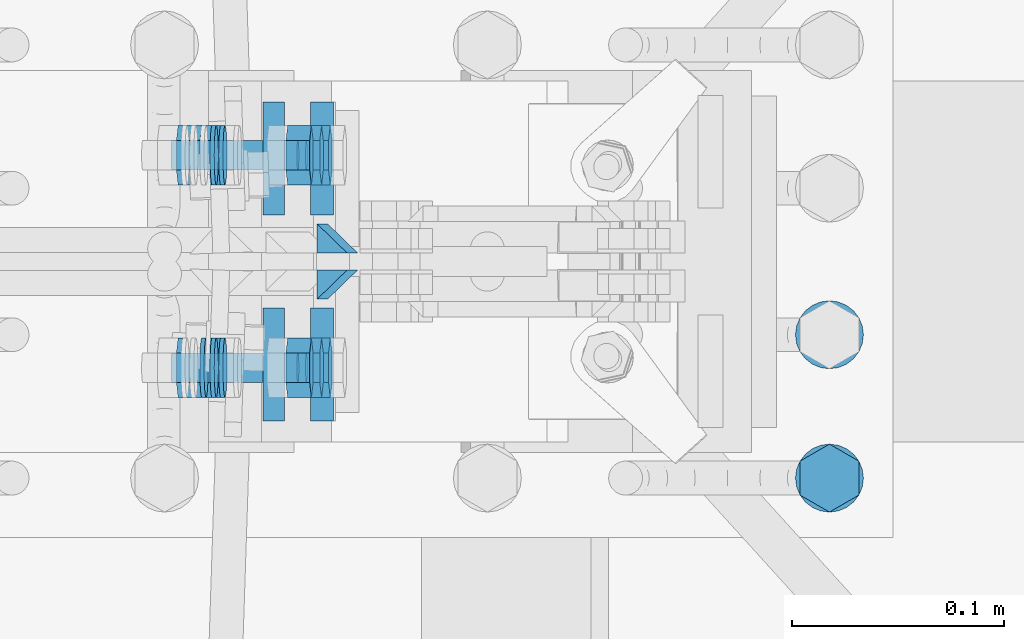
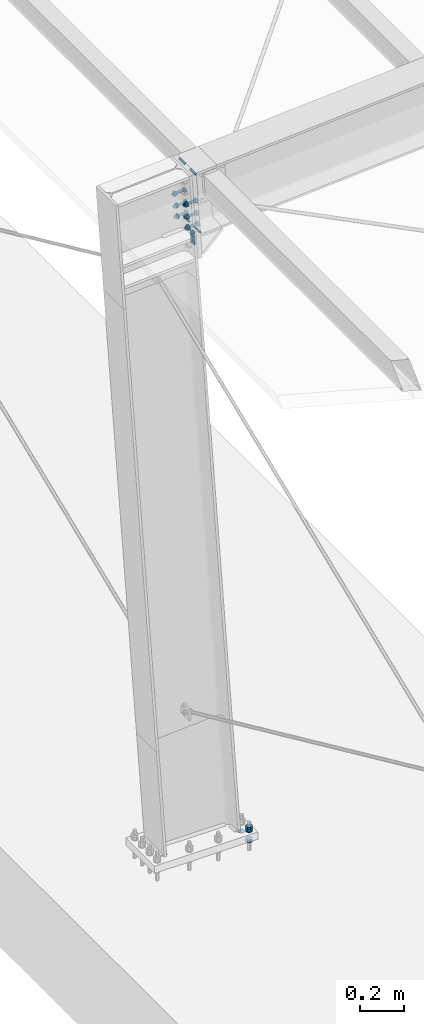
# One storey, part 55 of 72: 29 mechanical fasteners, 12 fasteners.
"""IFC4 building model written with IfcOpenShell, lengths in metres."""

from ifc_helpers import new_model, si_unit, frame, origin_with_axes, place, context, project, spatial, polyline, outline, extrude, type_object, element, save


model = new_model("IFC4")

# Units and contexts
model_context = context("Model", 3, precision=1e-05, world=origin_with_axes())
ifc_project = project(units=[si_unit("LENGTHUNIT", "METRE"), si_unit("AREAUNIT", "SQUARE_METRE"), si_unit("VOLUMEUNIT", "CUBIC_METRE"), si_unit("MASSUNIT", "GRAM", prefix="KILO"), si_unit("TIMEUNIT", "SECOND"), si_unit("PLANEANGLEUNIT", "RADIAN"), si_unit("SOLIDANGLEUNIT", "STERADIAN"), si_unit("THERMODYNAMICTEMPERATUREUNIT", "DEGREE_CELSIUS")], contexts=[model_context])

# Site, building, storey
placement_1 = place(None, origin_with_axes())
site = spatial("IfcSite", under=ifc_project, at=placement_1, Name="Italia", CompositionType="ELEMENT")
building = spatial("IfcBuilding", under=site, at=placement_1, Name="Pensilina", CompositionType="ELEMENT")
storey = spatial("IfcBuildingStorey", under=building, at=placement_1, Name="Storey 0", CompositionType="ELEMENT", Elevation=0.0)

# Mechanical fasteners
mechanical_fastener_type_1 = type_object("IfcMechanicalFastenerType", Name="Collegamento 0004_-199", PredefinedType="BOLT")
placement_2 = place(placement_1, origin_with_axes())
mechanical_fastener_1_placement = place(placement_2, origin_with_axes())
element("IfcMechanicalFastener", 1, at=mechanical_fastener_1_placement, inside=storey, type_object=mechanical_fastener_type_1, Name="Collegamento 0004_-199", NominalDiameter=0.032, context=model_context, shape_type="SweptSolid", body=[
    extrude(outline(polyline([(0.0, 0.0, 0.0), (-0.000544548, -0.00414109, 0.0), (-0.00214386, -0.00800002, 0.0), (-0.00468636, -0.0113137, 0.0), (-0.00799942, -0.0138564, 0.0), (-0.0118589, -0.0154548, 0.0), (-0.0159998, -0.016, 0.0), (-0.0201406, -0.0154548, 0.0), (-0.0240002, -0.0138564, 0.0), (-0.0273132, -0.0113137, 0.0), (-0.0298557, -0.00800002, 0.0), (-0.031455, -0.00414109, 0.0), (-0.0319996, 0.0, 0.0), (-0.031455, 0.00414109, 0.0), (-0.0298557, 0.00800002, 0.0), (-0.0273132, 0.0113137, 0.0), (-0.0240002, 0.0138564, 0.0), (-0.0201406, 0.0154548, 0.0), (-0.0159998, 0.016, 0.0), (-0.0118589, 0.0154548, 0.0), (-0.00799942, 0.0138564, 0.0), (-0.00468636, 0.0113137, 0.0), (-0.00214386, 0.00800002, 0.0), (-0.000544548, 0.00414109, 0.0), (0.0, 0.0, 0.0)])), frame((1.16913, 15.8215, 0.0597081), z_axis=(0.0, 0.0, 1.0), x_axis=(0.0, 1.0, 0.0)), (0.0, 0.0, 1.0), 0.004),
])
mechanical_fastener_type_2 = type_object("IfcMechanicalFastenerType", Name="Collegamento 0004_-199", PredefinedType="BOLT")
mechanical_fastener_2_placement = place(placement_2, origin_with_axes())
element("IfcMechanicalFastener", 2, at=mechanical_fastener_2_placement, inside=storey, type_object=mechanical_fastener_type_2, Name="Collegamento 0004_-199", NominalDiameter=0.0159997, context=model_context, shape_type="SweptSolid", body=[
    extrude(outline(polyline([(0.0, 0.0, 0.0), (0.0159998, 0.0, 0.0), (0.0239992, -0.0138564, 0.0), (0.0159998, -0.0277128, 0.0), (0.0, -0.0277128, 0.0), (-0.00800037, -0.0138564, 0.0), (0.0, 0.0, 0.0)])), frame((1.15527, 15.73, 0.107708), z_axis=(0.0, 0.0, 1.0), x_axis=(0.0, 1.0, 0.0)), (0.0, 0.0, 1.0), 0.0128),
])
mechanical_fastener_type_3 = type_object("IfcMechanicalFastenerType", Name="Collegamento 0004_-199", PredefinedType="BOLT")
mechanical_fastener_3_placement = place(placement_2, origin_with_axes())
element("IfcMechanicalFastener", 3, at=mechanical_fastener_3_placement, inside=storey, type_object=mechanical_fastener_type_3, Name="Collegamento 0004_-199", NominalDiameter=0.0159997, context=model_context, shape_type="SweptSolid", body=[
    extrude(outline(polyline([(0.0, 0.0, 0.0), (0.0159998, 0.0, 0.0), (0.0239992, -0.0138564, 0.0), (0.0159998, -0.0277128, 0.0), (0.0, -0.0277128, 0.0), (-0.00800037, -0.0138564, 0.0), (0.0, 0.0, 0.0)])), frame((1.15527, 15.73, 0.120508), z_axis=(0.0, 0.0, 1.0), x_axis=(0.0, 1.0, 0.0)), (0.0, 0.0, 1.0), 0.0128),
])
mechanical_fastener_type_4 = type_object("IfcMechanicalFastenerType", Name="Collegamento 0004_-199", PredefinedType="BOLT")
mechanical_fastener_4_placement = place(placement_2, origin_with_axes())
element("IfcMechanicalFastener", 4, at=mechanical_fastener_4_placement, inside=storey, type_object=mechanical_fastener_type_4, Name="Collegamento 0004_-199", NominalDiameter=0.0159997, context=model_context, shape_type="SweptSolid", body=[
    extrude(outline(polyline([(0.0, 0.0, 0.0), (0.0159998, 0.0, 0.0), (0.0239992, -0.0138564, 0.0), (0.0159998, -0.0277128, 0.0), (0.0, -0.0277128, 0.0), (-0.00800037, -0.0138564, 0.0), (0.0, 0.0, 0.0)])), frame((1.15527, 15.73, 0.0469081), z_axis=(0.0, 0.0, 1.0), x_axis=(0.0, 1.0, 0.0)), (0.0, 0.0, 1.0), 0.0128),
])
mechanical_fastener_type_5 = type_object("IfcMechanicalFastenerType", Name="Collegamento 0004_-199", PredefinedType="BOLT")
mechanical_fastener_5_placement = place(placement_2, origin_with_axes())
element("IfcMechanicalFastener", 5, at=mechanical_fastener_5_placement, inside=storey, type_object=mechanical_fastener_type_5, Name="Collegamento 0004_-199", NominalDiameter=0.032, context=model_context, shape_type="SweptSolid", body=[
    extrude(outline(polyline([(0.0, 0.0, 0.0), (-0.000544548, -0.00414109, 0.0), (-0.00214386, -0.00800002, 0.0), (-0.00468636, -0.0113137, 0.0), (-0.00799942, -0.0138564, 0.0), (-0.0118589, -0.0154548, 0.0), (-0.0159998, -0.016, 0.0), (-0.0201406, -0.0154548, 0.0), (-0.0240002, -0.0138564, 0.0), (-0.0273132, -0.0113137, 0.0), (-0.0298557, -0.00800002, 0.0), (-0.031455, -0.00414109, 0.0), (-0.0319996, 0.0, 0.0), (-0.031455, 0.00414109, 0.0), (-0.0298557, 0.00800002, 0.0), (-0.0273132, 0.0113137, 0.0), (-0.0240002, 0.0138564, 0.0), (-0.0201406, 0.0154548, 0.0), (-0.0159998, 0.016, 0.0), (-0.0118589, 0.0154548, 0.0), (-0.00799942, 0.0138564, 0.0), (-0.00468636, 0.0113137, 0.0), (-0.00214386, 0.00800002, 0.0), (-0.000544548, 0.00414109, 0.0), (0.0, 0.0, 0.0)])), frame((1.16913, 15.754, 0.103708), z_axis=(0.0, 0.0, 1.0), x_axis=(0.0, 1.0, 0.0)), (0.0, 0.0, 1.0), 0.004),
])
mechanical_fastener_type_6 = type_object("IfcMechanicalFastenerType", Name="Collegamento 0004_-199", PredefinedType="BOLT")
mechanical_fastener_6_placement = place(placement_2, origin_with_axes())
element("IfcMechanicalFastener", 6, at=mechanical_fastener_6_placement, inside=storey, type_object=mechanical_fastener_type_6, Name="Collegamento 0004_-199", NominalDiameter=0.032, context=model_context, shape_type="SweptSolid", body=[
    extrude(outline(polyline([(0.0, 0.0, 0.0), (-0.000544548, -0.00414109, 0.0), (-0.00214386, -0.00800002, 0.0), (-0.00468636, -0.0113137, 0.0), (-0.00799942, -0.0138564, 0.0), (-0.0118589, -0.0154548, 0.0), (-0.0159998, -0.016, 0.0), (-0.0201406, -0.0154548, 0.0), (-0.0240002, -0.0138564, 0.0), (-0.0273132, -0.0113137, 0.0), (-0.0298557, -0.00800002, 0.0), (-0.031455, -0.00414109, 0.0), (-0.0319996, 0.0, 0.0), (-0.031455, 0.00414109, 0.0), (-0.0298557, 0.00800002, 0.0), (-0.0273132, 0.0113137, 0.0), (-0.0240002, 0.0138564, 0.0), (-0.0201406, 0.0154548, 0.0), (-0.0159998, 0.016, 0.0), (-0.0118589, 0.0154548, 0.0), (-0.00799942, 0.0138564, 0.0), (-0.00468636, 0.0113137, 0.0), (-0.00214386, 0.00800002, 0.0), (-0.000544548, 0.00414109, 0.0), (0.0, 0.0, 0.0)])), frame((1.16913, 15.754, 0.0597081), z_axis=(0.0, 0.0, 1.0), x_axis=(0.0, 1.0, 0.0)), (0.0, 0.0, 1.0), 0.004),
])

# Fasteners
fastener_type_1 = type_object("IfcFastenerType", Name="Collegamento 0104_0204", PredefinedType="WELD")
fastener_1_placement = place(placement_2, origin_with_axes())
element("IfcFastener", 7, at=fastener_1_placement, inside=storey, type_object=fastener_type_1, Name="Collegamento 0104_0204", context=model_context, shape_type="SweptSolid", body=[
    extrude(outline(polyline([(0.0, 0.0, 0.0), (-0.00947309, 0.0105422, 0.0), (0.000676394, 0.00984502, 0.0), (0.0, 0.0, 0.0)])), frame((0.903157, 15.8619, 3.80624), z_axis=(0.0, 1.0, 0.0), x_axis=(-1.0, 0.0, 0.0)), (0.0, 0.0, 1.0), 0.0531006),
])
fastener_type_2 = type_object("IfcFastenerType", Name="Collegamento 0104_0204", PredefinedType="WELD")
fastener_2_placement = place(placement_2, origin_with_axes())
element("IfcFastener", 8, at=fastener_2_placement, inside=storey, type_object=fastener_type_2, Name="Collegamento 0104_0204", context=model_context, shape_type="SweptSolid", body=[
    extrude(outline(polyline([(0.0, 0.0, 0.0), (0.0108258, -0.00914764, 0.0), (0.000676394, -0.00984478, 0.0), (0.0, 0.0, 0.0)])), frame((0.924744, 15.9151, 3.49202), z_axis=(0.0, -1.0, 0.0), x_axis=(1.0, 0.0, 0.0)), (0.0, 0.0, 1.0), 0.0531006),
])
fastener_type_3 = type_object("IfcFastenerType", Name="Collegamento 0104_0204", PredefinedType="WELD")
fastener_3_placement = place(placement_2, origin_with_axes())
element("IfcFastener", 9, at=fastener_3_placement, inside=storey, type_object=fastener_type_3, Name="Collegamento 0104_0204", context=model_context, shape_type="SweptSolid", body=[
    extrude(outline(polyline([(0.0, 0.0, 0.0), (0.0108258, -0.00914764, 0.0), (0.000676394, -0.00984478, 0.0), (0.0, 0.0, 0.0)])), frame((0.924744, 15.8181, 3.49202), z_axis=(0.0, -1.0, 0.0), x_axis=(1.0, 0.0, 0.0)), (0.0, 0.0, 1.0), 0.0531006),
])
fastener_type_4 = type_object("IfcFastenerType", Name="Collegamento 0104_0204", PredefinedType="WELD")
fastener_4_placement = place(placement_2, origin_with_axes())
element("IfcFastener", 10, at=fastener_4_placement, inside=storey, type_object=fastener_type_4, Name="Collegamento 0104_0204", context=model_context, shape_type="SweptSolid", body=[
    extrude(outline(polyline([(0.0, 0.0, 0.0), (-0.00947309, 0.0105422, 0.0), (0.000676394, 0.00984502, 0.0), (0.0, 0.0, 0.0)])), frame((0.903157, 15.7649, 3.80624), z_axis=(0.0, 1.0, 0.0), x_axis=(-1.0, 0.0, 0.0)), (0.0, 0.0, 1.0), 0.0531006),
])
fastener_type_5 = type_object("IfcFastenerType", Name="Collegamento 0104_0204", PredefinedType="WELD")
fastener_5_placement = place(placement_2, origin_with_axes())
element("IfcFastener", 11, at=fastener_5_placement, inside=storey, type_object=fastener_type_5, Name="Collegamento 0104_0204", context=model_context, shape_type="SweptSolid", body=[
    extrude(outline(polyline([(0.0, 0.0, 0.0), (0.0137482, 0.0141734, 0.0), (0.0137482, 0.0, 0.0), (0.0, 0.0, 0.0)])), frame((0.932871, 15.8577, 3.37373), z_axis=(-0.068540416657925, 0.0, 0.997648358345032), x_axis=(0.0, -1.0, 0.0)), (0.0, 0.0, 1.0), 0.0721),
])
fastener_type_6 = type_object("IfcFastenerType", Name="Collegamento 0104_0204", PredefinedType="WELD")
fastener_6_placement = place(placement_2, origin_with_axes())
element("IfcFastener", 12, at=fastener_6_placement, inside=storey, type_object=fastener_type_6, Name="Collegamento 0104_0204", context=model_context, shape_type="SweptSolid", body=[
    extrude(outline(polyline([(0.0, 0.0, 0.0), (0.0137482, 0.0141734, 0.0), (0.0137482, 0.0, 0.0), (0.0, 0.0, 0.0)])), frame((0.927929, 15.8223, 3.44566), z_axis=(0.068540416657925, 0.0, -0.997648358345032), x_axis=(0.0, 1.0, 0.0)), (0.0, 0.0, 1.0), 0.0721),
])
fastener_type_7 = type_object("IfcFastenerType", Name="Collegamento 0104_0204", PredefinedType="WELD")
fastener_7_placement = place(placement_2, origin_with_axes())
element("IfcFastener", 13, at=fastener_7_placement, inside=storey, type_object=fastener_type_7, Name="Collegamento 0104_0204", context=model_context, shape_type="SweptSolid", body=[
    extrude(outline(polyline([(0.0, 0.0, 0.0), (-0.00947309, 0.0105422, 0.0), (0.000676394, 0.00984502, 0.0), (0.0, 0.0, 0.0)])), frame((0.903157, 15.8619, 3.80624), z_axis=(0.0, 1.0, 0.0), x_axis=(-1.0, 0.0, 0.0)), (0.0, 0.0, 1.0), 0.0531006),
])
fastener_type_8 = type_object("IfcFastenerType", Name="Collegamento 0104_0204", PredefinedType="WELD")
fastener_8_placement = place(placement_2, origin_with_axes())
element("IfcFastener", 14, at=fastener_8_placement, inside=storey, type_object=fastener_type_8, Name="Collegamento 0104_0204", context=model_context, shape_type="SweptSolid", body=[
    extrude(outline(polyline([(0.0, 0.0, 0.0), (0.0108258, -0.00914764, 0.0), (0.000676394, -0.00984478, 0.0), (0.0, 0.0, 0.0)])), frame((0.924744, 15.9151, 3.49202), z_axis=(0.0, -1.0, 0.0), x_axis=(1.0, 0.0, 0.0)), (0.0, 0.0, 1.0), 0.0531006),
])
fastener_type_9 = type_object("IfcFastenerType", Name="Collegamento 0104_0204", PredefinedType="WELD")
fastener_9_placement = place(placement_2, origin_with_axes())
element("IfcFastener", 15, at=fastener_9_placement, inside=storey, type_object=fastener_type_9, Name="Collegamento 0104_0204", context=model_context, shape_type="SweptSolid", body=[
    extrude(outline(polyline([(0.0, 0.0, 0.0), (0.0108258, -0.00914764, 0.0), (0.000676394, -0.00984478, 0.0), (0.0, 0.0, 0.0)])), frame((0.924744, 15.8181, 3.49202), z_axis=(0.0, -1.0, 0.0), x_axis=(1.0, 0.0, 0.0)), (0.0, 0.0, 1.0), 0.0531006),
])
fastener_type_10 = type_object("IfcFastenerType", Name="Collegamento 0104_0204", PredefinedType="WELD")
fastener_10_placement = place(placement_2, origin_with_axes())
element("IfcFastener", 16, at=fastener_10_placement, inside=storey, type_object=fastener_type_10, Name="Collegamento 0104_0204", context=model_context, shape_type="SweptSolid", body=[
    extrude(outline(polyline([(0.0, 0.0, 0.0), (-0.00947309, 0.0105422, 0.0), (0.000676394, 0.00984502, 0.0), (0.0, 0.0, 0.0)])), frame((0.903157, 15.7649, 3.80624), z_axis=(0.0, 1.0, 0.0), x_axis=(-1.0, 0.0, 0.0)), (0.0, 0.0, 1.0), 0.0531006),
])
fastener_type_11 = type_object("IfcFastenerType", Name="Collegamento 0104_0204", PredefinedType="WELD")
fastener_11_placement = place(placement_2, origin_with_axes())
element("IfcFastener", 17, at=fastener_11_placement, inside=storey, type_object=fastener_type_11, Name="Collegamento 0104_0204", context=model_context, shape_type="SweptSolid", body=[
    extrude(outline(polyline([(0.0, 0.0, 0.0), (0.0137482, 0.0141734, 0.0), (0.0137482, 0.0, 0.0), (0.0, 0.0, 0.0)])), frame((0.932871, 15.8577, 3.37373), z_axis=(-0.068540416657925, 0.0, 0.997648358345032), x_axis=(0.0, -1.0, 0.0)), (0.0, 0.0, 1.0), 0.0721),
])
fastener_type_12 = type_object("IfcFastenerType", Name="Collegamento 0104_0204", PredefinedType="WELD")
fastener_12_placement = place(placement_2, origin_with_axes())
element("IfcFastener", 18, at=fastener_12_placement, inside=storey, type_object=fastener_type_12, Name="Collegamento 0104_0204", context=model_context, shape_type="SweptSolid", body=[
    extrude(outline(polyline([(0.0, 0.0, 0.0), (0.0137482, 0.0141734, 0.0), (0.0137482, 0.0, 0.0), (0.0, 0.0, 0.0)])), frame((0.927929, 15.8223, 3.44566), z_axis=(0.068540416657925, 0.0, -0.997648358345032), x_axis=(0.0, 1.0, 0.0)), (0.0, 0.0, 1.0), 0.0721),
])

# Mechanical fasteners
mechanical_fastener_type_7 = type_object("IfcMechanicalFastenerType", Name="Collegamento 0104_0204", PredefinedType="BOLT")
mechanical_fastener_7_placement = place(placement_2, origin_with_axes())
element("IfcMechanicalFastener", 19, at=mechanical_fastener_7_placement, inside=storey, type_object=mechanical_fastener_type_7, Name="Collegamento 0104_0204", NominalDiameter=0.0139999, context=model_context, shape_type="SweptSolid", body=[
    extrude(outline(polyline([(0.0, 0.0, 0.0), (-0.0139999, 0.0, 0.0), (-0.0209999, 0.0121245, 0.0), (-0.0139999, 0.0242488, 0.0), (0.0, 0.0242488, 0.0), (0.00699997, 0.0121245, 0.0), (0.0, 0.0, 0.0)])), frame((0.923742, 15.797, 3.50734), z_axis=(0.997648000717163, 0.0, 0.068545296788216), x_axis=(0.0, 1.0, 0.0)), (0.0, 0.0, 1.0), 0.0112),
])
mechanical_fastener_type_8 = type_object("IfcMechanicalFastenerType", Name="Collegamento 0104_0204", PredefinedType="BOLT")
mechanical_fastener_8_placement = place(placement_2, origin_with_axes())
element("IfcMechanicalFastener", 20, at=mechanical_fastener_8_placement, inside=storey, type_object=mechanical_fastener_type_8, Name="Collegamento 0104_0204", NominalDiameter=0.014, context=model_context, shape_type="SweptSolid", body=[
    extrude(outline(polyline([(0.0, 0.0, 0.0), (-0.000238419, -0.00181174, 0.0), (-0.000937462, -0.00350022, 0.0), (-0.0020504, -0.00494981, 0.0), (-0.00349998, -0.00606227, 0.0), (-0.00518799, -0.00676155, 0.0), (-0.00699997, -0.00699997, 0.0), (-0.00881195, -0.00676155, 0.0), (-0.0105, -0.00606227, 0.0), (-0.0119495, -0.00494981, 0.0), (-0.0130625, -0.00350022, 0.0), (-0.0137615, -0.00181174, 0.0), (-0.0139999, 0.0, 0.0), (-0.0137615, 0.00181174, 0.0), (-0.0130625, 0.00349998, 0.0), (-0.0119495, 0.00494981, 0.0), (-0.0105, 0.00606227, 0.0), (-0.00881195, 0.00676155, 0.0), (-0.00699997, 0.00699997, 0.0), (-0.00518799, 0.00676155, 0.0), (-0.00349998, 0.00606227, 0.0), (-0.0020504, 0.00494981, 0.0), (-0.000937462, 0.00349998, 0.0), (-0.000238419, 0.00181174, 0.0), (0.0, 0.0, 0.0)])), frame((0.863551, 15.797, 3.51536), z_axis=(0.997648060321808, 0.0, 0.068544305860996), x_axis=(0.0, 1.0, 0.0)), (0.0, 0.0, 1.0), 0.0595),
])
mechanical_fastener_type_9 = type_object("IfcMechanicalFastenerType", Name="Collegamento 0104_0204", PredefinedType="BOLT")
mechanical_fastener_9_placement = place(placement_2, origin_with_axes())
element("IfcMechanicalFastener", 21, at=mechanical_fastener_9_placement, inside=storey, type_object=mechanical_fastener_type_9, Name="Collegamento 0104_0204", NominalDiameter=0.0139999, context=model_context, shape_type="SweptSolid", body=[
    extrude(outline(polyline([(0.0, 0.0, 0.0), (-0.0139999, 0.0, 0.0), (-0.0209999, 0.0121245, 0.0), (-0.0139999, 0.0242488, 0.0), (0.0, 0.0242488, 0.0), (0.00699997, 0.0121245, 0.0), (0.0, 0.0, 0.0)])), frame((0.872163, 15.797, 3.5038), z_axis=(0.997648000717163, 0.0, 0.068545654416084), x_axis=(0.0, 1.0, 0.0)), (0.0, 0.0, 1.0), 0.0111999),
])
mechanical_fastener_type_10 = type_object("IfcMechanicalFastenerType", Name="Collegamento 0104_0204", PredefinedType="BOLT")
mechanical_fastener_10_placement = place(placement_2, origin_with_axes())
element("IfcMechanicalFastener", 22, at=mechanical_fastener_10_placement, inside=storey, type_object=mechanical_fastener_type_10, Name="Collegamento 0104_0204", NominalDiameter=0.028, context=model_context, shape_type="SweptSolid", body=[
    extrude(outline(polyline([(0.0, 0.0, 0.0), (-0.000476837, -0.00362349, 0.0), (-0.00187588, -0.00699997, 0.0), (-0.0041008, -0.00989938, 0.0), (-0.00699997, -0.0121243, 0.0), (-0.0103769, -0.0135229, 0.0), (-0.0139999, -0.0139999, 0.0), (-0.0176229, -0.0135229, 0.0), (-0.0209999, -0.0121243, 0.0), (-0.0238991, -0.00989938, 0.0), (-0.026124, -0.00699997, 0.0), (-0.027523, -0.00362349, 0.0), (-0.0279999, 0.0, 0.0), (-0.027523, 0.00362349, 0.0), (-0.026124, 0.00699997, 0.0), (-0.0238991, 0.00989962, 0.0), (-0.0209999, 0.0121245, 0.0), (-0.0176229, 0.0135231, 0.0), (-0.0139999, 0.0139999, 0.0), (-0.0103769, 0.0135231, 0.0), (-0.00699997, 0.0121245, 0.0), (-0.0041008, 0.00989962, 0.0), (-0.00187588, 0.00699997, 0.0), (-0.000476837, 0.00362349, 0.0), (0.0, 0.0, 0.0)])), frame((0.882506, 15.804, 3.51666), z_axis=(0.997648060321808, 0.0, 0.06854435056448), x_axis=(0.0, 1.0, 0.0)), (0.0, 0.0, 1.0), 0.00200003),
])
mechanical_fastener_type_11 = type_object("IfcMechanicalFastenerType", Name="Collegamento 0104_0204", PredefinedType="BOLT")
mechanical_fastener_11_placement = place(placement_2, origin_with_axes())
element("IfcMechanicalFastener", 23, at=mechanical_fastener_11_placement, inside=storey, type_object=mechanical_fastener_type_11, Name="Collegamento 0104_0204", NominalDiameter=0.0139999, context=model_context, shape_type="SweptSolid", body=[
    extrude(outline(polyline([(0.0, 0.0, 0.0), (-0.0139999, 0.0, 0.0), (-0.0209999, 0.0121245, 0.0), (-0.0139999, 0.0242488, 0.0), (0.0, 0.0242488, 0.0), (0.00699997, 0.0121245, 0.0), (0.0, 0.0, 0.0)])), frame((0.923742, 15.897, 3.50734), z_axis=(0.997648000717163, 0.0, 0.068545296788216), x_axis=(0.0, 1.0, 0.0)), (0.0, 0.0, 1.0), 0.0112),
])
mechanical_fastener_type_12 = type_object("IfcMechanicalFastenerType", Name="Collegamento 0104_0204", PredefinedType="BOLT")
mechanical_fastener_12_placement = place(placement_2, origin_with_axes())
element("IfcMechanicalFastener", 24, at=mechanical_fastener_12_placement, inside=storey, type_object=mechanical_fastener_type_12, Name="Collegamento 0104_0204", NominalDiameter=0.014, context=model_context, shape_type="SweptSolid", body=[
    extrude(outline(polyline([(0.0, 0.0, 0.0), (-0.000238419, -0.00181174, 0.0), (-0.000937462, -0.00350022, 0.0), (-0.0020504, -0.00494981, 0.0), (-0.00349998, -0.00606227, 0.0), (-0.00518799, -0.00676155, 0.0), (-0.00699997, -0.00699997, 0.0), (-0.00881195, -0.00676155, 0.0), (-0.0105, -0.00606227, 0.0), (-0.0119495, -0.00494981, 0.0), (-0.0130625, -0.00350022, 0.0), (-0.0137615, -0.00181174, 0.0), (-0.0139999, 0.0, 0.0), (-0.0137615, 0.00181174, 0.0), (-0.0130625, 0.00349998, 0.0), (-0.0119495, 0.00494981, 0.0), (-0.0105, 0.00606227, 0.0), (-0.00881195, 0.00676155, 0.0), (-0.00699997, 0.00699997, 0.0), (-0.00518799, 0.00676155, 0.0), (-0.00349998, 0.00606227, 0.0), (-0.0020504, 0.00494981, 0.0), (-0.000937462, 0.00349998, 0.0), (-0.000238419, 0.00181174, 0.0), (0.0, 0.0, 0.0)])), frame((0.863551, 15.897, 3.51536), z_axis=(0.997648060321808, 0.0, 0.068544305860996), x_axis=(0.0, 1.0, 0.0)), (0.0, 0.0, 1.0), 0.0595),
])
mechanical_fastener_type_13 = type_object("IfcMechanicalFastenerType", Name="Collegamento 0104_0204", PredefinedType="BOLT")
mechanical_fastener_13_placement = place(placement_2, origin_with_axes())
element("IfcMechanicalFastener", 25, at=mechanical_fastener_13_placement, inside=storey, type_object=mechanical_fastener_type_13, Name="Collegamento 0104_0204", NominalDiameter=0.0139999, context=model_context, shape_type="SweptSolid", body=[
    extrude(outline(polyline([(0.0, 0.0, 0.0), (-0.0139999, 0.0, 0.0), (-0.0209999, 0.0121245, 0.0), (-0.0139999, 0.0242488, 0.0), (0.0, 0.0242488, 0.0), (0.00699997, 0.0121245, 0.0), (0.0, 0.0, 0.0)])), frame((0.872163, 15.897, 3.5038), z_axis=(0.997648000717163, 0.0, 0.068545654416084), x_axis=(0.0, 1.0, 0.0)), (0.0, 0.0, 1.0), 0.0111999),
])
mechanical_fastener_type_14 = type_object("IfcMechanicalFastenerType", Name="Collegamento 0104_0204", PredefinedType="BOLT")
mechanical_fastener_14_placement = place(placement_2, origin_with_axes())
element("IfcMechanicalFastener", 26, at=mechanical_fastener_14_placement, inside=storey, type_object=mechanical_fastener_type_14, Name="Collegamento 0104_0204", NominalDiameter=0.028, context=model_context, shape_type="SweptSolid", body=[
    extrude(outline(polyline([(0.0, 0.0, 0.0), (-0.000476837, -0.00362349, 0.0), (-0.00187588, -0.00699997, 0.0), (-0.0041008, -0.00989938, 0.0), (-0.00699997, -0.0121243, 0.0), (-0.0103769, -0.0135229, 0.0), (-0.0139999, -0.0139999, 0.0), (-0.0176229, -0.0135229, 0.0), (-0.0209999, -0.0121243, 0.0), (-0.0238991, -0.00989938, 0.0), (-0.026124, -0.00699997, 0.0), (-0.027523, -0.00362349, 0.0), (-0.0279999, 0.0, 0.0), (-0.027523, 0.00362349, 0.0), (-0.026124, 0.00699997, 0.0), (-0.0238991, 0.00989962, 0.0), (-0.0209999, 0.0121245, 0.0), (-0.0176229, 0.0135231, 0.0), (-0.0139999, 0.0139999, 0.0), (-0.0103769, 0.0135231, 0.0), (-0.00699997, 0.0121245, 0.0), (-0.0041008, 0.00989962, 0.0), (-0.00187588, 0.00699997, 0.0), (-0.000476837, 0.00362349, 0.0), (0.0, 0.0, 0.0)])), frame((0.882506, 15.904, 3.51666), z_axis=(0.997648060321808, 0.0, 0.06854435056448), x_axis=(0.0, 1.0, 0.0)), (0.0, 0.0, 1.0), 0.00200003),
])
mechanical_fastener_type_15 = type_object("IfcMechanicalFastenerType", Name="Collegamento 0104_0204", PredefinedType="BOLT")
mechanical_fastener_15_placement = place(placement_2, origin_with_axes())
element("IfcMechanicalFastener", 27, at=mechanical_fastener_15_placement, inside=storey, type_object=mechanical_fastener_type_15, Name="Collegamento 0104_0204", NominalDiameter=0.0139999, context=model_context, shape_type="SweptSolid", body=[
    extrude(outline(polyline([(0.0, 0.0, 0.0), (-0.0139999, 0.0, 0.0), (-0.0209999, 0.0121243, 0.0), (-0.0139999, 0.0242488, 0.0), (0.0, 0.0242488, 0.0), (0.00699997, 0.0121243, 0.0), (0.0, 0.0, 0.0)])), frame((0.919629, 15.797, 3.5672), z_axis=(0.997649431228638, 0.0, 0.068524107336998), x_axis=(0.0, 1.0, 0.0)), (0.0, 0.0, 1.0), 0.0112),
])
mechanical_fastener_type_16 = type_object("IfcMechanicalFastenerType", Name="Collegamento 0104_0204", PredefinedType="BOLT")
mechanical_fastener_16_placement = place(placement_2, origin_with_axes())
element("IfcMechanicalFastener", 28, at=mechanical_fastener_16_placement, inside=storey, type_object=mechanical_fastener_type_16, Name="Collegamento 0104_0204", NominalDiameter=0.014, context=model_context, shape_type="SweptSolid", body=[
    extrude(outline(polyline([(0.0, 0.0, 0.0), (-0.000238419, -0.00181174, 0.0), (-0.000937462, -0.00349998, 0.0), (-0.0020504, -0.00494981, 0.0), (-0.00349998, -0.00606227, 0.0), (-0.00518799, -0.00676155, 0.0), (-0.00699997, -0.00699997, 0.0), (-0.00881195, -0.00676155, 0.0), (-0.0105, -0.00606227, 0.0), (-0.0119495, -0.00494981, 0.0), (-0.0130625, -0.00349998, 0.0), (-0.0137615, -0.00181174, 0.0), (-0.0139999, 0.0, 0.0), (-0.0137615, 0.00181174, 0.0), (-0.0130625, 0.00350022, 0.0), (-0.0119495, 0.00494981, 0.0), (-0.0105, 0.00606227, 0.0), (-0.00881195, 0.00676155, 0.0), (-0.00699997, 0.00699997, 0.0), (-0.00518799, 0.00676155, 0.0), (-0.00349998, 0.00606227, 0.0), (-0.0020504, 0.00494981, 0.0), (-0.000937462, 0.00350022, 0.0), (-0.000238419, 0.00181174, 0.0), (0.0, 0.0, 0.0)])), frame((0.859438, 15.797, 3.57522), z_axis=(0.997648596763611, 0.0, 0.068536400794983), x_axis=(0.0, 1.0, 0.0)), (0.0, 0.0, 1.0), 0.0594999),
])
mechanical_fastener_type_17 = type_object("IfcMechanicalFastenerType", Name="Collegamento 0104_0204", PredefinedType="BOLT")
mechanical_fastener_17_placement = place(placement_2, origin_with_axes())
element("IfcMechanicalFastener", 29, at=mechanical_fastener_17_placement, inside=storey, type_object=mechanical_fastener_type_17, Name="Collegamento 0104_0204", NominalDiameter=0.0139999, context=model_context, shape_type="SweptSolid", body=[
    extrude(outline(polyline([(0.0, 0.0, 0.0), (-0.0139999, 0.0, 0.0), (-0.0209999, 0.0121243, 0.0), (-0.0139999, 0.0242486, 0.0), (0.0, 0.0242486, 0.0), (0.00699997, 0.0121243, 0.0), (0.0, 0.0, 0.0)])), frame((0.868051, 15.797, 3.56365), z_axis=(0.997648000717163, 0.0, 0.068545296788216), x_axis=(0.0, 1.0, 0.0)), (0.0, 0.0, 1.0), 0.0112),
])
mechanical_fastener_type_18 = type_object("IfcMechanicalFastenerType", Name="Collegamento 0104_0204", PredefinedType="BOLT")
mechanical_fastener_18_placement = place(placement_2, origin_with_axes())
element("IfcMechanicalFastener", 30, at=mechanical_fastener_18_placement, inside=storey, type_object=mechanical_fastener_type_18, Name="Collegamento 0104_0204", NominalDiameter=0.028, context=model_context, shape_type="SweptSolid", body=[
    extrude(outline(polyline([(0.0, 0.0, 0.0), (-0.000476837, -0.00362349, 0.0), (-0.00187588, -0.00699997, 0.0), (-0.0041008, -0.00989962, 0.0), (-0.00699997, -0.0121245, 0.0), (-0.0103769, -0.0135229, 0.0), (-0.0139999, -0.0139999, 0.0), (-0.0176229, -0.0135229, 0.0), (-0.0209999, -0.0121245, 0.0), (-0.0238991, -0.00989962, 0.0), (-0.026124, -0.00699997, 0.0), (-0.027523, -0.00362349, 0.0), (-0.0279999, 0.0, 0.0), (-0.027523, 0.00362349, 0.0), (-0.026124, 0.00699997, 0.0), (-0.0238991, 0.00989962, 0.0), (-0.0209999, 0.0121245, 0.0), (-0.0176229, 0.0135229, 0.0), (-0.0139999, 0.0139999, 0.0), (-0.0103769, 0.0135229, 0.0), (-0.00699997, 0.0121245, 0.0), (-0.0041008, 0.00989962, 0.0), (-0.00187588, 0.00699997, 0.0), (-0.000476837, 0.00362349, 0.0), (0.0, 0.0, 0.0)])), frame((0.878394, 15.804, 3.57652), z_axis=(0.997648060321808, 0.0, 0.06854435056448), x_axis=(0.0, 1.0, 0.0)), (0.0, 0.0, 1.0), 0.00200003),
])
mechanical_fastener_type_19 = type_object("IfcMechanicalFastenerType", Name="Collegamento 0104_0204", PredefinedType="BOLT")
mechanical_fastener_19_placement = place(placement_2, origin_with_axes())
element("IfcMechanicalFastener", 31, at=mechanical_fastener_19_placement, inside=storey, type_object=mechanical_fastener_type_19, Name="Collegamento 0104_0204", NominalDiameter=0.0139999, context=model_context, shape_type="SweptSolid", body=[
    extrude(outline(polyline([(0.0, 0.0, 0.0), (-0.0139999, 0.0, 0.0), (-0.0209999, 0.0121243, 0.0), (-0.0139999, 0.0242488, 0.0), (0.0, 0.0242488, 0.0), (0.00699997, 0.0121243, 0.0), (0.0, 0.0, 0.0)])), frame((0.919629, 15.897, 3.5672), z_axis=(0.997649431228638, 0.0, 0.068524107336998), x_axis=(0.0, 1.0, 0.0)), (0.0, 0.0, 1.0), 0.0112),
])
mechanical_fastener_type_20 = type_object("IfcMechanicalFastenerType", Name="Collegamento 0104_0204", PredefinedType="BOLT")
mechanical_fastener_20_placement = place(placement_2, origin_with_axes())
element("IfcMechanicalFastener", 32, at=mechanical_fastener_20_placement, inside=storey, type_object=mechanical_fastener_type_20, Name="Collegamento 0104_0204", NominalDiameter=0.014, context=model_context, shape_type="SweptSolid", body=[
    extrude(outline(polyline([(0.0, 0.0, 0.0), (-0.000238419, -0.00181174, 0.0), (-0.000937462, -0.00349998, 0.0), (-0.0020504, -0.00494981, 0.0), (-0.00349998, -0.00606227, 0.0), (-0.00518799, -0.00676155, 0.0), (-0.00699997, -0.00699997, 0.0), (-0.00881195, -0.00676155, 0.0), (-0.0105, -0.00606227, 0.0), (-0.0119495, -0.00494981, 0.0), (-0.0130625, -0.00349998, 0.0), (-0.0137615, -0.00181174, 0.0), (-0.0139999, 0.0, 0.0), (-0.0137615, 0.00181174, 0.0), (-0.0130625, 0.00350022, 0.0), (-0.0119495, 0.00494981, 0.0), (-0.0105, 0.00606227, 0.0), (-0.00881195, 0.00676155, 0.0), (-0.00699997, 0.00699997, 0.0), (-0.00518799, 0.00676155, 0.0), (-0.00349998, 0.00606227, 0.0), (-0.0020504, 0.00494981, 0.0), (-0.000937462, 0.00350022, 0.0), (-0.000238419, 0.00181174, 0.0), (0.0, 0.0, 0.0)])), frame((0.859438, 15.897, 3.57522), z_axis=(0.997648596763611, 0.0, 0.068536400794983), x_axis=(0.0, 1.0, 0.0)), (0.0, 0.0, 1.0), 0.0594999),
])
mechanical_fastener_type_21 = type_object("IfcMechanicalFastenerType", Name="Collegamento 0104_0204", PredefinedType="BOLT")
mechanical_fastener_21_placement = place(placement_2, origin_with_axes())
element("IfcMechanicalFastener", 33, at=mechanical_fastener_21_placement, inside=storey, type_object=mechanical_fastener_type_21, Name="Collegamento 0104_0204", NominalDiameter=0.0139999, context=model_context, shape_type="SweptSolid", body=[
    extrude(outline(polyline([(0.0, 0.0, 0.0), (-0.0139999, 0.0, 0.0), (-0.0209999, 0.0121243, 0.0), (-0.0139999, 0.0242486, 0.0), (0.0, 0.0242486, 0.0), (0.00699997, 0.0121243, 0.0), (0.0, 0.0, 0.0)])), frame((0.868051, 15.897, 3.56365), z_axis=(0.997648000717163, 0.0, 0.068545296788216), x_axis=(0.0, 1.0, 0.0)), (0.0, 0.0, 1.0), 0.0112),
])
mechanical_fastener_type_22 = type_object("IfcMechanicalFastenerType", Name="Collegamento 0104_0204", PredefinedType="BOLT")
mechanical_fastener_22_placement = place(placement_2, origin_with_axes())
element("IfcMechanicalFastener", 34, at=mechanical_fastener_22_placement, inside=storey, type_object=mechanical_fastener_type_22, Name="Collegamento 0104_0204", NominalDiameter=0.028, context=model_context, shape_type="SweptSolid", body=[
    extrude(outline(polyline([(0.0, 0.0, 0.0), (-0.000476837, -0.00362349, 0.0), (-0.00187588, -0.00699997, 0.0), (-0.0041008, -0.00989962, 0.0), (-0.00699997, -0.0121245, 0.0), (-0.0103769, -0.0135229, 0.0), (-0.0139999, -0.0139999, 0.0), (-0.0176229, -0.0135229, 0.0), (-0.0209999, -0.0121245, 0.0), (-0.0238991, -0.00989962, 0.0), (-0.026124, -0.00699997, 0.0), (-0.027523, -0.00362349, 0.0), (-0.0279999, 0.0, 0.0), (-0.027523, 0.00362349, 0.0), (-0.026124, 0.00699997, 0.0), (-0.0238991, 0.00989962, 0.0), (-0.0209999, 0.0121245, 0.0), (-0.0176229, 0.0135229, 0.0), (-0.0139999, 0.0139999, 0.0), (-0.0103769, 0.0135229, 0.0), (-0.00699997, 0.0121245, 0.0), (-0.0041008, 0.00989962, 0.0), (-0.00187588, 0.00699997, 0.0), (-0.000476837, 0.00362349, 0.0), (0.0, 0.0, 0.0)])), frame((0.878394, 15.904, 3.57652), z_axis=(0.997648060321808, 0.0, 0.06854435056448), x_axis=(0.0, 1.0, 0.0)), (0.0, 0.0, 1.0), 0.00200003),
])
mechanical_fastener_type_23 = type_object("IfcMechanicalFastenerType", Name="Collegamento 0104_0204", PredefinedType="BOLT")
mechanical_fastener_23_placement = place(placement_2, origin_with_axes())
element("IfcMechanicalFastener", 35, at=mechanical_fastener_23_placement, inside=storey, type_object=mechanical_fastener_type_23, Name="Collegamento 0104_0204", NominalDiameter=0.0139999, context=model_context, shape_type="SweptSolid", body=[
    extrude(outline(polyline([(0.0, 0.0, 0.0), (-0.0139999, 0.0, 0.0), (-0.0209999, 0.0121243, 0.0), (-0.0139999, 0.0242488, 0.0), (0.0, 0.0242488, 0.0), (0.00699997, 0.0121243, 0.0), (0.0, 0.0, 0.0)])), frame((0.914832, 15.797, 3.63703), z_axis=(0.997648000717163, 0.0, 0.068545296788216), x_axis=(0.0, 1.0, 0.0)), (0.0, 0.0, 1.0), 0.0112),
])
mechanical_fastener_type_24 = type_object("IfcMechanicalFastenerType", Name="Collegamento 0104_0204", PredefinedType="BOLT")
mechanical_fastener_24_placement = place(placement_2, origin_with_axes())
element("IfcMechanicalFastener", 36, at=mechanical_fastener_24_placement, inside=storey, type_object=mechanical_fastener_type_24, Name="Collegamento 0104_0204", NominalDiameter=0.014, context=model_context, shape_type="SweptSolid", body=[
    extrude(outline(polyline([(0.0, 0.0, 0.0), (-0.000238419, -0.00181174, 0.0), (-0.000937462, -0.00350022, 0.0), (-0.0020504, -0.00494981, 0.0), (-0.00349998, -0.00606227, 0.0), (-0.00518799, -0.00676155, 0.0), (-0.00699997, -0.00699997, 0.0), (-0.00881195, -0.00676155, 0.0), (-0.0105, -0.00606227, 0.0), (-0.0119495, -0.00494981, 0.0), (-0.0130625, -0.00350022, 0.0), (-0.0137615, -0.00181174, 0.0), (-0.0139999, 0.0, 0.0), (-0.0137615, 0.00181174, 0.0), (-0.0130625, 0.00349998, 0.0), (-0.0119495, 0.00494957, 0.0), (-0.0105, 0.00606203, 0.0), (-0.00881195, 0.00676131, 0.0), (-0.00699997, 0.00699997, 0.0), (-0.00518799, 0.00676131, 0.0), (-0.00349998, 0.00606203, 0.0), (-0.0020504, 0.00494957, 0.0), (-0.000937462, 0.00349998, 0.0), (-0.000238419, 0.00181174, 0.0), (0.0, 0.0, 0.0)])), frame((0.85464, 15.797, 3.64505), z_axis=(0.997648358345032, 0.0, 0.068540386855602), x_axis=(0.0, 1.0, 0.0)), (0.0, 0.0, 1.0), 0.0595),
])
mechanical_fastener_type_25 = type_object("IfcMechanicalFastenerType", Name="Collegamento 0104_0204", PredefinedType="BOLT")
mechanical_fastener_25_placement = place(placement_2, origin_with_axes())
element("IfcMechanicalFastener", 37, at=mechanical_fastener_25_placement, inside=storey, type_object=mechanical_fastener_type_25, Name="Collegamento 0104_0204", NominalDiameter=0.0139999, context=model_context, shape_type="SweptSolid", body=[
    extrude(outline(polyline([(0.0, 0.0, 0.0), (-0.0139999, 0.0, 0.0), (-0.0209999, 0.0121243, 0.0), (-0.0139999, 0.0242486, 0.0), (0.0, 0.0242486, 0.0), (0.00699997, 0.0121243, 0.0), (0.0, 0.0, 0.0)])), frame((0.863253, 15.797, 3.63349), z_axis=(0.997649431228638, 0.0, 0.068524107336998), x_axis=(0.0, 1.0, 0.0)), (0.0, 0.0, 1.0), 0.0112),
])
mechanical_fastener_type_26 = type_object("IfcMechanicalFastenerType", Name="Collegamento 0104_0204", PredefinedType="BOLT")
mechanical_fastener_26_placement = place(placement_2, origin_with_axes())
element("IfcMechanicalFastener", 38, at=mechanical_fastener_26_placement, inside=storey, type_object=mechanical_fastener_type_26, Name="Collegamento 0104_0204", NominalDiameter=0.028, context=model_context, shape_type="SweptSolid", body=[
    extrude(outline(polyline([(0.0, 0.0, 0.0), (-0.000476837, -0.00362349, 0.0), (-0.00187588, -0.00699997, 0.0), (-0.0041008, -0.00989938, 0.0), (-0.00699997, -0.0121243, 0.0), (-0.0103769, -0.0135229, 0.0), (-0.0139999, -0.0139999, 0.0), (-0.0176229, -0.0135229, 0.0), (-0.0209999, -0.0121243, 0.0), (-0.0238991, -0.00989938, 0.0), (-0.026124, -0.00699997, 0.0), (-0.027523, -0.00362349, 0.0), (-0.0279999, 0.0, 0.0), (-0.027523, 0.00362349, 0.0), (-0.026124, 0.00699997, 0.0), (-0.0238991, 0.00989962, 0.0), (-0.0209999, 0.0121245, 0.0), (-0.0176229, 0.0135231, 0.0), (-0.0139999, 0.0139999, 0.0), (-0.0103769, 0.0135231, 0.0), (-0.00699997, 0.0121245, 0.0), (-0.0041008, 0.00989962, 0.0), (-0.00187588, 0.00699997, 0.0), (-0.000476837, 0.00362349, 0.0), (0.0, 0.0, 0.0)])), frame((0.873596, 15.804, 3.64635), z_axis=(0.997647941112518, 0.0, 0.068546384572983), x_axis=(0.0, 1.0, 0.0)), (0.0, 0.0, 1.0), 0.00199997),
])
mechanical_fastener_type_27 = type_object("IfcMechanicalFastenerType", Name="Collegamento 0104_0204", PredefinedType="BOLT")
mechanical_fastener_27_placement = place(placement_2, origin_with_axes())
element("IfcMechanicalFastener", 39, at=mechanical_fastener_27_placement, inside=storey, type_object=mechanical_fastener_type_27, Name="Collegamento 0104_0204", NominalDiameter=0.0139999, context=model_context, shape_type="SweptSolid", body=[
    extrude(outline(polyline([(0.0, 0.0, 0.0), (-0.0139999, 0.0, 0.0), (-0.0209999, 0.0121243, 0.0), (-0.0139999, 0.0242488, 0.0), (0.0, 0.0242488, 0.0), (0.00699997, 0.0121243, 0.0), (0.0, 0.0, 0.0)])), frame((0.914832, 15.897, 3.63703), z_axis=(0.997648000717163, 0.0, 0.068545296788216), x_axis=(0.0, 1.0, 0.0)), (0.0, 0.0, 1.0), 0.0112),
])
mechanical_fastener_type_28 = type_object("IfcMechanicalFastenerType", Name="Collegamento 0104_0204", PredefinedType="BOLT")
mechanical_fastener_28_placement = place(placement_2, origin_with_axes())
element("IfcMechanicalFastener", 40, at=mechanical_fastener_28_placement, inside=storey, type_object=mechanical_fastener_type_28, Name="Collegamento 0104_0204", NominalDiameter=0.014, context=model_context, shape_type="SweptSolid", body=[
    extrude(outline(polyline([(0.0, 0.0, 0.0), (-0.000238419, -0.00181174, 0.0), (-0.000937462, -0.00350022, 0.0), (-0.0020504, -0.00494981, 0.0), (-0.00349998, -0.00606227, 0.0), (-0.00518799, -0.00676155, 0.0), (-0.00699997, -0.00699997, 0.0), (-0.00881195, -0.00676155, 0.0), (-0.0105, -0.00606227, 0.0), (-0.0119495, -0.00494981, 0.0), (-0.0130625, -0.00350022, 0.0), (-0.0137615, -0.00181174, 0.0), (-0.0139999, 0.0, 0.0), (-0.0137615, 0.00181174, 0.0), (-0.0130625, 0.00349998, 0.0), (-0.0119495, 0.00494957, 0.0), (-0.0105, 0.00606203, 0.0), (-0.00881195, 0.00676131, 0.0), (-0.00699997, 0.00699997, 0.0), (-0.00518799, 0.00676131, 0.0), (-0.00349998, 0.00606203, 0.0), (-0.0020504, 0.00494957, 0.0), (-0.000937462, 0.00349998, 0.0), (-0.000238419, 0.00181174, 0.0), (0.0, 0.0, 0.0)])), frame((0.85464, 15.897, 3.64505), z_axis=(0.997648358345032, 0.0, 0.068540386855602), x_axis=(0.0, 1.0, 0.0)), (0.0, 0.0, 1.0), 0.0595),
])
mechanical_fastener_type_29 = type_object("IfcMechanicalFastenerType", Name="Collegamento 0104_0204", PredefinedType="BOLT")
mechanical_fastener_29_placement = place(placement_2, origin_with_axes())
element("IfcMechanicalFastener", 41, at=mechanical_fastener_29_placement, inside=storey, type_object=mechanical_fastener_type_29, Name="Collegamento 0104_0204", NominalDiameter=0.0139999, context=model_context, shape_type="SweptSolid", body=[
    extrude(outline(polyline([(0.0, 0.0, 0.0), (-0.0139999, 0.0, 0.0), (-0.0209999, 0.0121243, 0.0), (-0.0139999, 0.0242486, 0.0), (0.0, 0.0242486, 0.0), (0.00699997, 0.0121243, 0.0), (0.0, 0.0, 0.0)])), frame((0.863253, 15.897, 3.63349), z_axis=(0.997649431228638, 0.0, 0.068524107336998), x_axis=(0.0, 1.0, 0.0)), (0.0, 0.0, 1.0), 0.0112),
])

save(model, "model.ifc")
